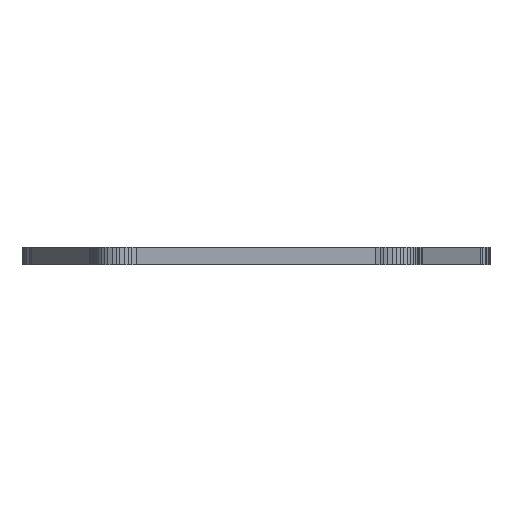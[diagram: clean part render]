
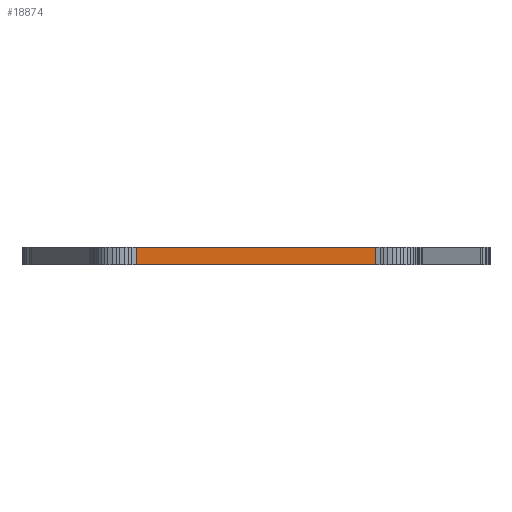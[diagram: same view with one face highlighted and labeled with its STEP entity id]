
A CAD part, front view. The second image highlights one B-rep face of the part: STEP entity #18874.
In plain terms, the highlighted planar face has unit normal (0, -1, 0).
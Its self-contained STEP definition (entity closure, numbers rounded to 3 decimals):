
#72 = PLANE('',#73);
#73 = AXIS2_PLACEMENT_3D('',#74,#75,#76);
#74 = CARTESIAN_POINT('',(0.002,2.763,
    0.));
#75 = DIRECTION('',(-0.,0.,1.));
#76 = DIRECTION('',(-1.,-0.,0.));
#126 = PLANE('',#127);
#127 = AXIS2_PLACEMENT_3D('',#128,#129,#130);
#128 = CARTESIAN_POINT('',(0.002,2.763,5.));
#129 = DIRECTION('',(-0.,0.,1.));
#130 = DIRECTION('',(-1.,-0.,0.));
#1131 = VERTEX_POINT('',#1132);
#1132 = CARTESIAN_POINT('',(-33.558,-98.25,5.));
#1146 = PLANE('',#1147);
#1147 = AXIS2_PLACEMENT_3D('',#1148,#1149,#1150);
#1148 = CARTESIAN_POINT('',(-34.706,-98.478,5.));
#1149 = DIRECTION('',(0.195,-0.981,0.)
  );
#1150 = DIRECTION('',(0.981,0.195,0.)
  );
#1158 = EDGE_CURVE('',#1131,#1159,#1161,.T.);
#1159 = VERTEX_POINT('',#1160);
#1160 = CARTESIAN_POINT('',(33.558,-98.25,5.));
#1161 = SURFACE_CURVE('',#1162,(#1166,#1173),.PCURVE_S1.);
#1162 = LINE('',#1163,#1164);
#1163 = CARTESIAN_POINT('',(-33.558,-98.25,5.));
#1164 = VECTOR('',#1165,1.);
#1165 = DIRECTION('',(1.,0.,0.));
#1166 = PCURVE('',#126,#1167);
#1167 = DEFINITIONAL_REPRESENTATION('',(#1168),#1172);
#1168 = LINE('',#1169,#1170);
#1169 = CARTESIAN_POINT('',(33.56,101.013));
#1170 = VECTOR('',#1171,1.);
#1171 = DIRECTION('',(-1.,0.));
#1172 = ( GEOMETRIC_REPRESENTATION_CONTEXT(2) 
PARAMETRIC_REPRESENTATION_CONTEXT() REPRESENTATION_CONTEXT('2D SPACE',''
  ) );
#1173 = PCURVE('',#1174,#1179);
#1174 = PLANE('',#1175);
#1175 = AXIS2_PLACEMENT_3D('',#1176,#1177,#1178);
#1176 = CARTESIAN_POINT('',(-33.558,-98.25,5.));
#1177 = DIRECTION('',(0.,-1.,0.));
#1178 = DIRECTION('',(1.,0.,0.));
#1179 = DEFINITIONAL_REPRESENTATION('',(#1180),#1184);
#1180 = LINE('',#1181,#1182);
#1181 = CARTESIAN_POINT('',(0.,0.));
#1182 = VECTOR('',#1183,1.);
#1183 = DIRECTION('',(1.,0.));
#1184 = ( GEOMETRIC_REPRESENTATION_CONTEXT(2) 
PARAMETRIC_REPRESENTATION_CONTEXT() REPRESENTATION_CONTEXT('2D SPACE',''
  ) );
#1202 = PLANE('',#1203);
#1203 = AXIS2_PLACEMENT_3D('',#1204,#1205,#1206);
#1204 = CARTESIAN_POINT('',(33.558,-98.25,5.));
#1205 = DIRECTION('',(-0.195,-0.981,0.
    ));
#1206 = DIRECTION('',(0.981,-0.195,0.)
  );
#10228 = VERTEX_POINT('',#10229);
#10229 = CARTESIAN_POINT('',(-33.558,-98.25,0.));
#10250 = EDGE_CURVE('',#10228,#10251,#10253,.T.);
#10251 = VERTEX_POINT('',#10252);
#10252 = CARTESIAN_POINT('',(33.558,-98.25,0.));
#10253 = SURFACE_CURVE('',#10254,(#10258,#10265),.PCURVE_S1.);
#10254 = LINE('',#10255,#10256);
#10255 = CARTESIAN_POINT('',(-33.558,-98.25,0.));
#10256 = VECTOR('',#10257,1.);
#10257 = DIRECTION('',(1.,0.,0.));
#10258 = PCURVE('',#72,#10259);
#10259 = DEFINITIONAL_REPRESENTATION('',(#10260),#10264);
#10260 = LINE('',#10261,#10262);
#10261 = CARTESIAN_POINT('',(33.56,101.013));
#10262 = VECTOR('',#10263,1.);
#10263 = DIRECTION('',(-1.,0.));
#10264 = ( GEOMETRIC_REPRESENTATION_CONTEXT(2) 
PARAMETRIC_REPRESENTATION_CONTEXT() REPRESENTATION_CONTEXT('2D SPACE',''
  ) );
#10265 = PCURVE('',#1174,#10266);
#10266 = DEFINITIONAL_REPRESENTATION('',(#10267),#10271);
#10267 = LINE('',#10268,#10269);
#10268 = CARTESIAN_POINT('',(0.,-5.));
#10269 = VECTOR('',#10270,1.);
#10270 = DIRECTION('',(1.,0.));
#10271 = ( GEOMETRIC_REPRESENTATION_CONTEXT(2) 
PARAMETRIC_REPRESENTATION_CONTEXT() REPRESENTATION_CONTEXT('2D SPACE',''
  ) );
#18826 = EDGE_CURVE('',#1131,#10228,#18827,.T.);
#18827 = SURFACE_CURVE('',#18828,(#18832,#18839),.PCURVE_S1.);
#18828 = LINE('',#18829,#18830);
#18829 = CARTESIAN_POINT('',(-33.558,-98.25,5.));
#18830 = VECTOR('',#18831,1.);
#18831 = DIRECTION('',(0.,0.,-1.));
#18832 = PCURVE('',#1146,#18833);
#18833 = DEFINITIONAL_REPRESENTATION('',(#18834),#18838);
#18834 = LINE('',#18835,#18836);
#18835 = CARTESIAN_POINT('',(1.171,0.));
#18836 = VECTOR('',#18837,1.);
#18837 = DIRECTION('',(0.,-1.));
#18838 = ( GEOMETRIC_REPRESENTATION_CONTEXT(2) 
PARAMETRIC_REPRESENTATION_CONTEXT() REPRESENTATION_CONTEXT('2D SPACE',''
  ) );
#18839 = PCURVE('',#1174,#18840);
#18840 = DEFINITIONAL_REPRESENTATION('',(#18841),#18845);
#18841 = LINE('',#18842,#18843);
#18842 = CARTESIAN_POINT('',(0.,0.));
#18843 = VECTOR('',#18844,1.);
#18844 = DIRECTION('',(0.,-1.));
#18845 = ( GEOMETRIC_REPRESENTATION_CONTEXT(2) 
PARAMETRIC_REPRESENTATION_CONTEXT() REPRESENTATION_CONTEXT('2D SPACE',''
  ) );
#18874 = ADVANCED_FACE('',(#18875),#1174,.T.);
#18875 = FACE_BOUND('',#18876,.T.);
#18876 = EDGE_LOOP('',(#18877,#18878,#18879,#18900));
#18877 = ORIENTED_EDGE('',*,*,#18826,.T.);
#18878 = ORIENTED_EDGE('',*,*,#10250,.T.);
#18879 = ORIENTED_EDGE('',*,*,#18880,.F.);
#18880 = EDGE_CURVE('',#1159,#10251,#18881,.T.);
#18881 = SURFACE_CURVE('',#18882,(#18886,#18893),.PCURVE_S1.);
#18882 = LINE('',#18883,#18884);
#18883 = CARTESIAN_POINT('',(33.558,-98.25,5.));
#18884 = VECTOR('',#18885,1.);
#18885 = DIRECTION('',(0.,0.,-1.));
#18886 = PCURVE('',#1174,#18887);
#18887 = DEFINITIONAL_REPRESENTATION('',(#18888),#18892);
#18888 = LINE('',#18889,#18890);
#18889 = CARTESIAN_POINT('',(67.115,0.));
#18890 = VECTOR('',#18891,1.);
#18891 = DIRECTION('',(0.,-1.));
#18892 = ( GEOMETRIC_REPRESENTATION_CONTEXT(2) 
PARAMETRIC_REPRESENTATION_CONTEXT() REPRESENTATION_CONTEXT('2D SPACE',''
  ) );
#18893 = PCURVE('',#1202,#18894);
#18894 = DEFINITIONAL_REPRESENTATION('',(#18895),#18899);
#18895 = LINE('',#18896,#18897);
#18896 = CARTESIAN_POINT('',(0.,0.));
#18897 = VECTOR('',#18898,1.);
#18898 = DIRECTION('',(0.,-1.));
#18899 = ( GEOMETRIC_REPRESENTATION_CONTEXT(2) 
PARAMETRIC_REPRESENTATION_CONTEXT() REPRESENTATION_CONTEXT('2D SPACE',''
  ) );
#18900 = ORIENTED_EDGE('',*,*,#1158,.F.);
